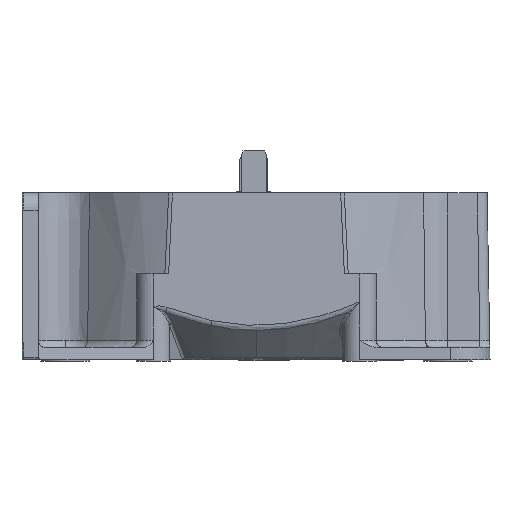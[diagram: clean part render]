
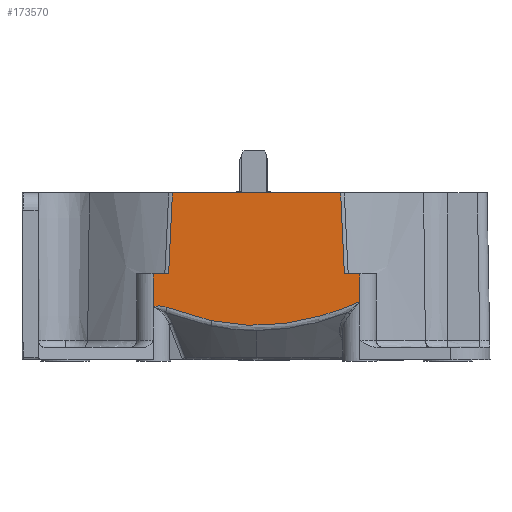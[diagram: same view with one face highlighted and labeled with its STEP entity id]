
A CAD part, left-side view. The second image highlights one B-rep face of the part: STEP entity #173570.
In plain terms, the highlighted planar face has unit normal (-1, 0, 0).
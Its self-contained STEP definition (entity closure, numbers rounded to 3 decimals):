
#75930=CARTESIAN_POINT('',(-44.85,-65.85,-34.483));
#75940=DIRECTION('',(0.,0.,1.));
#75950=VECTOR('',#75940,1.);
#75960=LINE('',#75930,#75950);
#117800=CARTESIAN_POINT('',(-44.85,-61.999,0.));
#117810=VERTEX_POINT('',#117800);
#117840=CARTESIAN_POINT('',(-44.85,0.,0.));
#117850=DIRECTION('',(0.,1.,-0.));
#117860=VECTOR('',#117850,1.);
#117870=LINE('',#117840,#117860);
#117880=CARTESIAN_POINT('',(-44.85,-27.701,0.));
#117890=VERTEX_POINT('',#117880);
#117900=EDGE_CURVE('',#117810,#117890,#117870,.T.);
#140280=CARTESIAN_POINT('',(-44.85,-26.941,-16.5));
#140290=VERTEX_POINT('',#140280);
#140340=CARTESIAN_POINT('',(-44.85,-26.941,-16.5));
#140350=CARTESIAN_POINT('',(-44.85,-27.19,-11.))
;
#140360=CARTESIAN_POINT('',(-44.85,-27.443,-5.5))
;
#140370=CARTESIAN_POINT('',(-44.85,-27.701,0.));
#140380=B_SPLINE_CURVE_WITH_KNOTS('',3,(#140340,#140350,#140360,#140370)
,.UNSPECIFIED.,.F.,.F.,(4,4),(0.,16.518),.UNSPECIFIED.);
#140390=EDGE_CURVE('',#140290,#117890,#140380,.T.);
#140500=CARTESIAN_POINT('',(-44.85,0.,-16.5));
#140510=DIRECTION('',(0.,1.,-0.));
#140520=VECTOR('',#140510,1.);
#140530=LINE('',#140500,#140520);
#140540=CARTESIAN_POINT('',(-44.85,-23.85,-16.5));
#140550=VERTEX_POINT('',#140540);
#140560=EDGE_CURVE('',#140290,#140550,#140530,.T.);
#144270=CARTESIAN_POINT('',(-44.85,-23.85,-22.906))
;
#144280=DIRECTION('',(0.,0.,-1.));
#144290=VECTOR('',#144280,1.);
#144300=LINE('',#144270,#144290);
#158860=CARTESIAN_POINT('',(-44.85,-23.85,-23.202))
;
#158870=VERTEX_POINT('',#158860);
#172360=CARTESIAN_POINT('',(-44.85,-66.9,0.675))
;
#172370=DIRECTION('',(-1.,0.,0.));
#172380=DIRECTION('',(0.,1.,0.));
#172390=AXIS2_PLACEMENT_3D('',#172360,#172370,#172380);
#172400=PLANE('',#172390);
#172410=CARTESIAN_POINT('',(-44.85,-61.999,0.));
#172420=CARTESIAN_POINT('',(-44.85,-62.257,-5.5));
#172430=CARTESIAN_POINT('',(-44.85,-62.51,-11.))
;
#172440=CARTESIAN_POINT('',(-44.85,-62.759,-16.5));
#172450=B_SPLINE_CURVE_WITH_KNOTS('',3,(#172410,#172420,#172430,#172440)
,.UNSPECIFIED.,.F.,.F.,(4,4),(0.,16.518),.UNSPECIFIED.);
#172460=CARTESIAN_POINT('',(-44.85,-62.759,-16.5));
#172470=VERTEX_POINT('',#172460);
#172480=EDGE_CURVE('',#117810,#172470,#172450,.T.);
#172490=ORIENTED_EDGE('',*,*,#172480,.F.);
#172500=CARTESIAN_POINT('',(-44.85,0.,-16.5));
#172510=DIRECTION('',(0.,1.,-0.));
#172520=VECTOR('',#172510,1.);
#172530=LINE('',#172500,#172520);
#172540=CARTESIAN_POINT('',(-44.85,-65.85,-16.5));
#172550=VERTEX_POINT('',#172540);
#172560=EDGE_CURVE('',#172550,#172470,#172530,.T.);
#172570=ORIENTED_EDGE('',*,*,#172560,.T.);
#172580=CARTESIAN_POINT('',(-44.85,-65.85,-22.181));
#172590=VERTEX_POINT('',#172580);
#172600=EDGE_CURVE('',#172590,#172550,#75960,.T.);
#172610=ORIENTED_EDGE('',*,*,#172600,.T.);
#172620=CARTESIAN_POINT('',(-44.85,-35.606,-26.025))
;
#172630=CARTESIAN_POINT('',(-44.85,-35.84,-26.074));
#172640=CARTESIAN_POINT('',(-44.85,-36.074,-26.121))
;
#172650=CARTESIAN_POINT('',(-44.85,-36.744,-26.251))
;
#172660=CARTESIAN_POINT('',(-44.85,-37.18,-26.329))
;
#172670=CARTESIAN_POINT('',(-44.85,-38.055,-26.473))
;
#172680=CARTESIAN_POINT('',(-44.85,-38.493,-26.538))
;
#172690=CARTESIAN_POINT('',(-44.85,-39.371,-26.657))
;
#172700=CARTESIAN_POINT('',(-44.85,-39.811,-26.71))
;
#172710=CARTESIAN_POINT('',(-44.85,-40.692,-26.803))
;
#172720=CARTESIAN_POINT('',(-44.85,-41.133,-26.843))
;
#172730=CARTESIAN_POINT('',(-44.85,-42.016,-26.91));
#172740=CARTESIAN_POINT('',(-44.85,-42.459,-26.936))
;
#172750=CARTESIAN_POINT('',(-44.85,-43.344,-26.976))
;
#172760=CARTESIAN_POINT('',(-44.85,-43.786,-26.989));
#172770=CARTESIAN_POINT('',(-44.85,-44.672,-27.002))
;
#172780=CARTESIAN_POINT('',(-44.85,-45.115,-27.001))
;
#172790=CARTESIAN_POINT('',(-44.85,-46.,-26.987))
;
#172800=CARTESIAN_POINT('',(-44.85,-46.442,-26.973));
#172810=CARTESIAN_POINT('',(-44.85,-47.325,-26.932));
#172820=CARTESIAN_POINT('',(-44.85,-47.766,-26.904))
;
#172830=CARTESIAN_POINT('',(-44.85,-48.648,-26.836))
;
#172840=CARTESIAN_POINT('',(-44.85,-49.088,-26.796));
#172850=CARTESIAN_POINT('',(-44.85,-49.967,-26.701))
;
#172860=CARTESIAN_POINT('',(-44.85,-50.406,-26.648))
;
#172870=CARTESIAN_POINT('',(-44.85,-51.282,-26.528))
;
#172880=CARTESIAN_POINT('',(-44.85,-51.719,-26.461))
;
#172890=CARTESIAN_POINT('',(-44.85,-52.592,-26.316))
;
#172900=CARTESIAN_POINT('',(-44.85,-53.027,-26.238))
;
#172910=CARTESIAN_POINT('',(-44.85,-53.895,-26.068))
;
#172920=CARTESIAN_POINT('',(-44.85,-54.328,-25.978))
;
#172930=CARTESIAN_POINT('',(-44.85,-55.191,-25.786))
;
#172940=CARTESIAN_POINT('',(-44.85,-55.622,-25.684))
;
#172950=CARTESIAN_POINT('',(-44.85,-56.481,-25.469))
;
#172960=CARTESIAN_POINT('',(-44.85,-56.91,-25.356))
;
#172970=CARTESIAN_POINT('',(-44.85,-57.764,-25.119))
;
#172980=CARTESIAN_POINT('',(-44.85,-58.19,-24.996))
;
#172990=CARTESIAN_POINT('',(-44.85,-59.463,-24.61));
#173000=CARTESIAN_POINT('',(-44.85,-60.306,-24.334))
;
#173010=CARTESIAN_POINT('',(-44.85,-61.561,-23.892))
;
#173020=CARTESIAN_POINT('',(-44.85,-61.977,-23.741))
;
#173030=CARTESIAN_POINT('',(-44.85,-62.808,-23.429))
;
#173040=CARTESIAN_POINT('',(-44.85,-63.222,-23.269));
#173050=CARTESIAN_POINT('',(-44.85,-64.046,-22.942))
;
#173060=CARTESIAN_POINT('',(-44.85,-64.457,-22.774))
;
#173070=CARTESIAN_POINT('',(-44.85,-65.195,-22.464))
;
#173080=CARTESIAN_POINT('',(-44.85,-65.523,-22.324))
;
#173090=CARTESIAN_POINT('',(-44.85,-65.85,-22.181));
#173100=B_SPLINE_CURVE_WITH_KNOTS('',3,(#172620,#172630,#172640,#172650,
#172660,#172670,#172680,#172690,#172700,#172710,#172720,#172730,#172740,
#172750,#172760,#172770,#172780,#172790,#172800,#172810,#172820,#172830,
#172840,#172850,#172860,#172870,#172880,#172890,#172900,#172910,#172920,
#172930,#172940,#172950,#172960,#172970,#172980,#172990,#173000,#173010,
#173020,#173030,#173040,#173050,#173060,#173070,#173080,#173090),
.UNSPECIFIED.,.F.,.F.,(4,2,2,2,2,2,2,2,2,2,2,2,2,2,2,2,2,2,2,2,2,2,2,4),
(0.,0.023,0.066,0.109,
0.152,0.195,0.238,0.28,
0.323,0.366,0.409,0.452,
0.495,0.537,0.58,0.623,
0.666,0.709,0.752,0.837,
0.88,0.923,0.966,1.),.UNSPECIFIED.)
;
#173110=CARTESIAN_POINT('',(-44.85,-35.606,-26.025))
;
#173120=VERTEX_POINT('',#173110);
#173130=EDGE_CURVE('',#173120,#172590,#173100,.T.);
#173140=ORIENTED_EDGE('',*,*,#173130,.T.);
#173150=CARTESIAN_POINT('',(-44.85,-26.652,-23.335))
;
#173160=CARTESIAN_POINT('',(-44.85,-26.691,-23.35))
;
#173170=CARTESIAN_POINT('',(-44.85,-26.729,-23.365));
#173180=CARTESIAN_POINT('',(-44.85,-27.167,-23.533))
;
#173190=CARTESIAN_POINT('',(-44.85,-27.567,-23.683))
;
#173200=CARTESIAN_POINT('',(-44.85,-28.385,-23.98))
;
#173210=CARTESIAN_POINT('',(-44.85,-28.804,-24.127))
;
#173220=CARTESIAN_POINT('',(-44.85,-30.064,-24.554))
;
#173230=CARTESIAN_POINT('',(-44.85,-30.91,-24.821));
#173240=CARTESIAN_POINT('',(-44.85,-32.187,-25.19));
#173250=CARTESIAN_POINT('',(-44.85,-32.615,-25.308))
;
#173260=CARTESIAN_POINT('',(-44.85,-33.473,-25.534))
;
#173270=CARTESIAN_POINT('',(-44.85,-33.903,-25.641));
#173280=CARTESIAN_POINT('',(-44.85,-34.757,-25.842))
;
#173290=CARTESIAN_POINT('',(-44.85,-35.181,-25.937))
;
#173300=CARTESIAN_POINT('',(-44.85,-35.606,-26.025))
;
#173310=B_SPLINE_CURVE_WITH_KNOTS('',3,(#173150,#173160,#173170,#173180,
#173190,#173200,#173210,#173220,#173230,#173240,#173250,#173260,#173270,
#173280,#173290,#173300),.UNSPECIFIED.,.F.,.F.,(4,2,2,2,2,2,2,4),(0.,
0.013,0.15,0.292,0.576
,0.718,0.861,1.),.UNSPECIFIED.);
#173320=CARTESIAN_POINT('',(-44.85,-26.652,-23.335))
;
#173330=VERTEX_POINT('',#173320);
#173340=EDGE_CURVE('',#173330,#173120,#173310,.T.);
#173350=ORIENTED_EDGE('',*,*,#173340,.T.);
#173360=CARTESIAN_POINT('',(-44.85,-23.85,-23.202))
;
#173370=CARTESIAN_POINT('',(-44.85,-23.863,-23.198))
;
#173380=CARTESIAN_POINT('',(-44.85,-23.888,
-23.19));
#173390=CARTESIAN_POINT('',(-44.85,-23.94,
-23.175));
#173400=CARTESIAN_POINT('',(-44.85,-24.032,
-23.149));
#173410=CARTESIAN_POINT('',(-44.85,-24.222,
-23.104));
#173420=CARTESIAN_POINT('',(-44.85,-24.618,
-23.036));
#173430=CARTESIAN_POINT('',(-44.85,-25.212,
-23.012));
#173440=CARTESIAN_POINT('',(-44.85,-25.939,
-23.103));
#173450=CARTESIAN_POINT('',(-44.85,-26.417,
-23.244));
#173460=CARTESIAN_POINT('',(-44.85,-26.652,-23.335))
;
#173470=B_SPLINE_CURVE_WITH_KNOTS('',3,(#173360,#173370,#173380,#173390,
#173400,#173410,#173420,#173430,#173440,#173450,#173460),.UNSPECIFIED.,
.F.,.F.,(4,1,1,1,1,1,1,1,4),(0.,0.014,0.028,
0.057,0.114,0.233,0.479,
0.735,1.),.UNSPECIFIED.);
#173480=EDGE_CURVE('',#158870,#173330,#173470,.T.);
#173490=ORIENTED_EDGE('',*,*,#173480,.T.);
#173500=EDGE_CURVE('',#140550,#158870,#144300,.T.);
#173510=ORIENTED_EDGE('',*,*,#173500,.T.);
#173520=ORIENTED_EDGE('',*,*,#140560,.T.);
#173530=ORIENTED_EDGE('',*,*,#140390,.F.);
#173540=ORIENTED_EDGE('',*,*,#117900,.T.);
#173550=EDGE_LOOP('',(#173540,#173530,#173520,#173510,#173490,#173350,
#173140,#172610,#172570,#172490));
#173560=FACE_OUTER_BOUND('',#173550,.T.);
#173570=ADVANCED_FACE('',(#173560),#172400,.T.);
